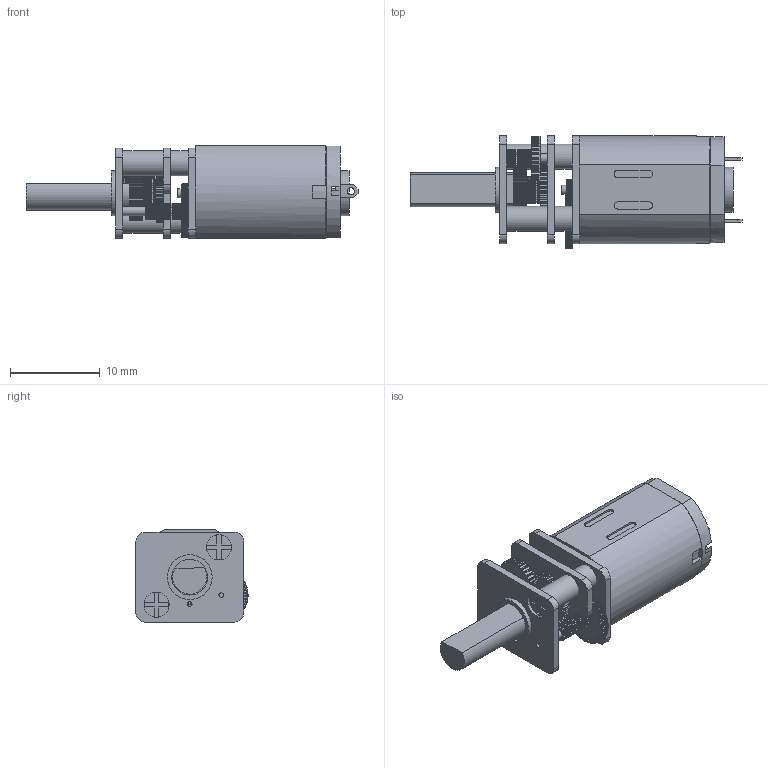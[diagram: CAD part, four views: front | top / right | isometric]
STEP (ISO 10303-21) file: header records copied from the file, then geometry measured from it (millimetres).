
FILE_DESCRIPTION(/* description */ (''),/* implementation_level */ '2;1');
FILE_NAME(/* name */ 'GA12 N20.stp',/* time_stamp */ '2025-11-17T10:31:15+07:00',/* author */ ('quang'),/* organization */ (''),/* preprocessor_version */ 'ST-DEVELOPER v20',/* originating_system */ 'Autodesk Inventor 2024',/* authorisation */ '');
FILE_SCHEMA (('AUTOMOTIVE_DESIGN { 1 0 10303 214 3 1 1 }'));
Products named in the file (1): GA12 N20
Bounding box: 37 x 12.5 x 10.41 mm (x, y, z)
Volume: 1625.2 mm3; surface area: 4745.5 mm2
Topology: 60 solids, 61 shells, 3575 faces, 10192 edges, 6747 vertices
Faces by surface type: plane 2457, cylinder 1118
Full cylindrical faces by diameter (mm): 0.5 x6, 0.8 x3, 1 x10, 1.5 x2, 2 x6, 2.15 x2, 2.2 x1, 2.8 x8, 3.5 x2, 4 x3, 5 x2, 6 x1
Entity records: 120006 total; most frequent: CARTESIAN_POINT 20597, ORIENTED_EDGE 20400, DIRECTION 19663, EDGE_CURVE 10200, LINE 7859, VECTOR 7859, VERTEX_POINT 6747, AXIS2_PLACEMENT_3D 5902
